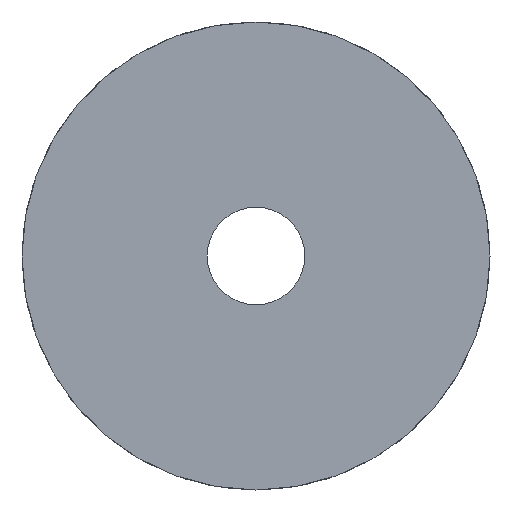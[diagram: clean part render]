
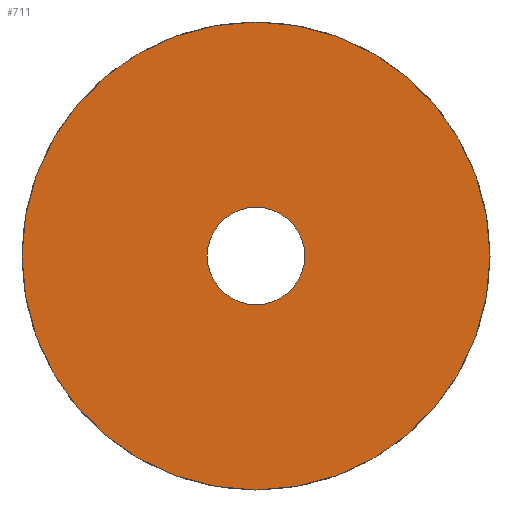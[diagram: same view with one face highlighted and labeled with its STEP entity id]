
A CAD part, front view. The second image highlights one B-rep face of the part: STEP entity #711.
In plain terms, the highlighted planar face has unit normal (0, -1, 0) as drawn and (0, 0, -1) by its records, which use the part's own axes.
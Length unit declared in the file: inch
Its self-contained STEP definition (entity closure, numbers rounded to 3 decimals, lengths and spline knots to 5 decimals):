
#648=CARTESIAN_POINT('',(0.15625,0.,0.0));
#649=VERTEX_POINT('',#648);
#650=CARTESIAN_POINT('',(0.0,0.0,0.0));
#651=DIRECTION('',(0.0,0.0,1.0));
#652=DIRECTION('',(-1.0,0.0,0.0));
#653=AXIS2_PLACEMENT_3D('',#650,#651,#652);
#654=CIRCLE('',#653,0.15625);
#655=EDGE_CURVE('',#649,#649,#654,.T.);
#676=CARTESIAN_POINT('',(0.75,0.,0.0));
#677=VERTEX_POINT('',#676);
#678=CARTESIAN_POINT('',(0.0,0.0,0.0));
#679=DIRECTION('',(0.0,0.0,-1.0));
#680=DIRECTION('',(-1.0,0.0,0.0));
#681=AXIS2_PLACEMENT_3D('',#678,#679,#680);
#682=CIRCLE('',#681,0.75);
#683=EDGE_CURVE('',#677,#677,#682,.T.);
#700=CARTESIAN_POINT('',(0.0,0.0,0.0));
#701=DIRECTION('',(0.0,0.0,-1.0));
#702=DIRECTION('',(-1.0,0.0,0.0));
#703=AXIS2_PLACEMENT_3D('',#700,#701,#702);
#704=PLANE('',#703);
#705=ORIENTED_EDGE('',*,*,#683,.T.);
#706=EDGE_LOOP('',(#705));
#707=FACE_OUTER_BOUND('',#706,.T.);
#708=ORIENTED_EDGE('',*,*,#655,.T.);
#709=EDGE_LOOP('',(#708));
#710=FACE_BOUND('',#709,.T.);
#711=ADVANCED_FACE('',(#707,#710),#704,.T.);
